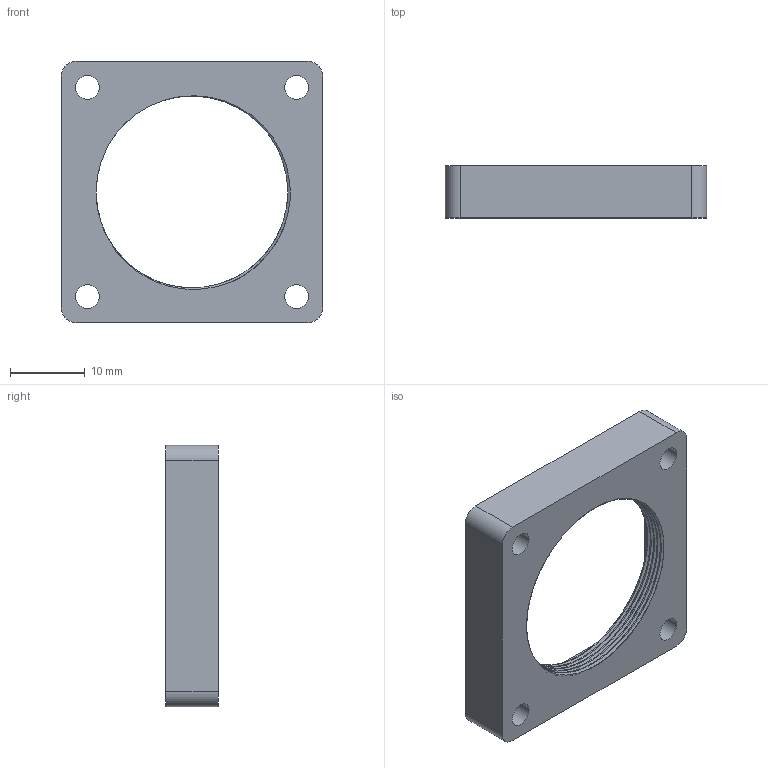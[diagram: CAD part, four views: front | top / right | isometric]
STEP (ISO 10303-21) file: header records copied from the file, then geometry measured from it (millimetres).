
FILE_DESCRIPTION(/* description */ ('STEP AP242 Edition 2','CAx-IF Rec.Pracs.---Representation and Presentation of Product Manufacturing Information (PMI)---4.0---2014-10-13','CAx-IF Rec.Pracs.---3D Tessellated Geometry---0.4---2014-09-14','2;1','CAx-IF Rec.Pracs.---User Defined Attributes---1.5---2016-08-15'),/* implementation_level */ '2;1');
FILE_NAME(/* name */ 'hartmann2 - hartmann2',/* time_stamp */ '2026-09-22T17:17:01Z',/* author */ (''),/* organization */ (''),/* preprocessor_version */ 'ST-DEVELOPER v20',/* originating_system */ 'ONSHAPE BY PTC INC, 1.221',/* authorisation */ ' ');
FILE_SCHEMA (('AP242_MANAGED_MODEL_BASED_3D_ENGINEERING_MIM_LF { 1 0 10303 442 3 1 4 }'));
Length unit declared in the file: metre
Products named in the file (1): ÇÐ³ý-À­Éì5
Bounding box: 35 x 7 x 35 mm (x, y, z)
Volume: 2932.3 mm3; surface area: 3381.1 mm2
Topology: 1 solids, 1 shells, 54 faces, 150 edges, 100 vertices
Faces by surface type: cylinder 28, plane 24, bspline 2
Entity records: 3772 total; most frequent: CARTESIAN_POINT 2373, ORIENTED_EDGE 300, DIRECTION 266, EDGE_CURVE 150, VERTEX_POINT 100, AXIS2_PLACEMENT_3D 90, LINE 86, VECTOR 86
